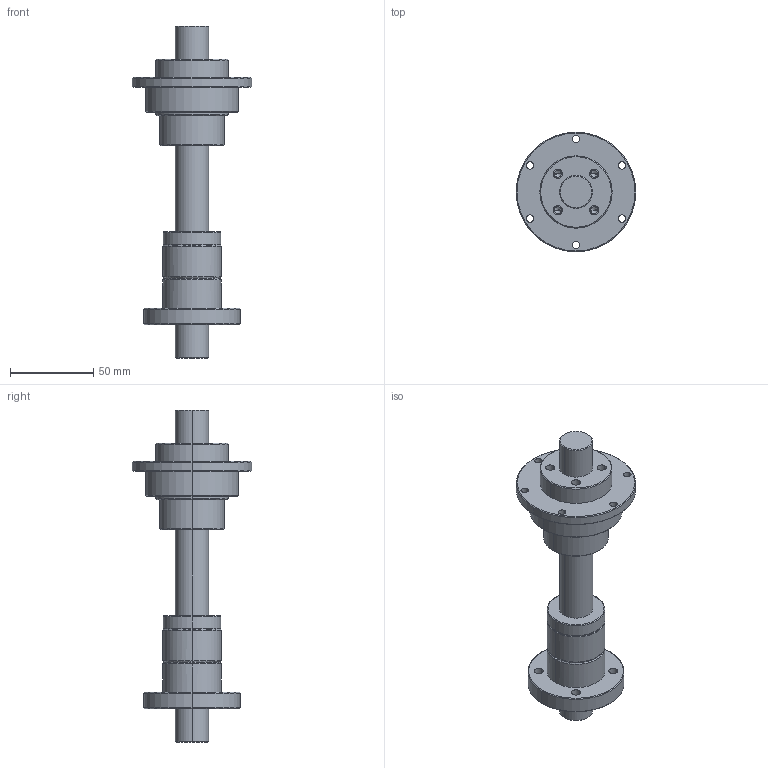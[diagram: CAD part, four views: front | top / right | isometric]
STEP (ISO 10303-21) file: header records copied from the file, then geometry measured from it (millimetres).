
FILE_DESCRIPTION (( 'STEP AP203' ), '1' );
FILE_NAME ('RSLY2020.STEP', '2014-11-13T05:20:06', ( '' ), ( '' ), 'SwSTEP 2.0', 'SolidWorks 2014', '' );
FILE_SCHEMA (( 'CONFIG_CONTROL_DESIGN' ));
Length unit declared in the file: millimetre
Products named in the file (4): SC20; RFSY2020; SLF20; RSLY2020
Assembly tree (3 placements, depth 2):
  RSLY2020
    SC20
    RFSY2020
    SLF20
Bounding box: 72 x 72 x 200 mm (x, y, z)
Volume: 197417.5 mm3; surface area: 51384.9 mm2
Topology: 4 solids, 4 shells, 159 faces, 386 edges, 238 vertices
Faces by surface type: cylinder 86, plane 31, cone 28, torus 14
Entity records: 5258 total; most frequent: CARTESIAN_POINT 957, DIRECTION 902, ORIENTED_EDGE 756, AXIS2_PLACEMENT_3D 379, EDGE_CURVE 378, VERTEX_POINT 238, CIRCLE 214, EDGE_LOOP 200
